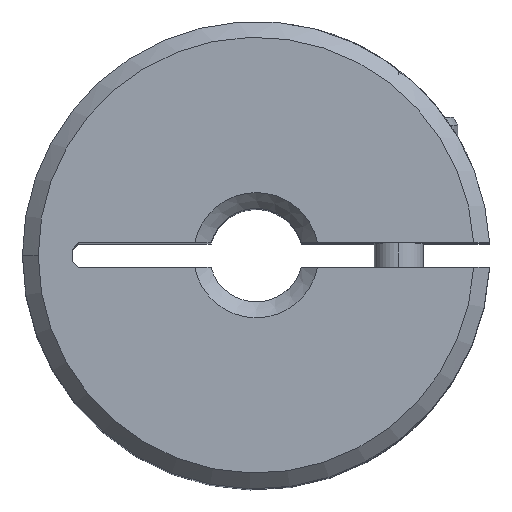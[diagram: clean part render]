
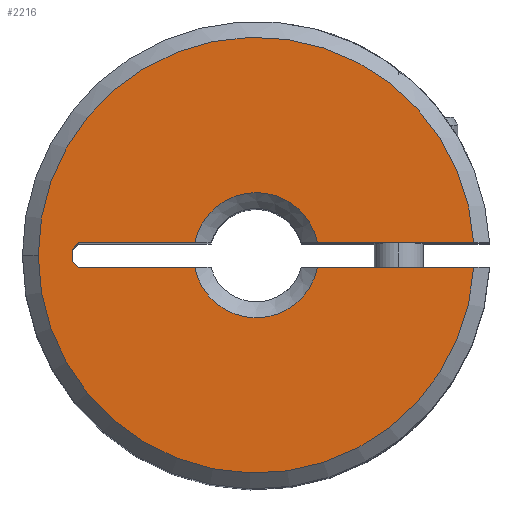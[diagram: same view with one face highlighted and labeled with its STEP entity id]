
A CAD part, top view. The second image highlights one B-rep face of the part: STEP entity #2216.
In plain terms, the highlighted planar face has unit normal (0, 0, 1).
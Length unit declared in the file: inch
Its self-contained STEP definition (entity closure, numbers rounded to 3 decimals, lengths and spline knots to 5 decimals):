
#263=DIRECTION('',(-0.707,0.707,0.));
#264=VECTOR('',#263,0.01096);
#265=CARTESIAN_POINT('',(-0.22426,-0.0155,0.43307));
#266=LINE('',#265,#264);
#267=DIRECTION('',(-1.,0.,0.));
#268=VECTOR('',#267,0.14674);
#269=CARTESIAN_POINT('',(-0.07752,-0.0155,
0.43307));
#270=LINE('',#269,#268);
#271=CARTESIAN_POINT('',(0.,0.,0.43307));
#272=DIRECTION('',(0.,0.,-1.));
#273=DIRECTION('',(0.981,-0.196,0.));
#274=AXIS2_PLACEMENT_3D('',#271,#272,#273);
#276=DIRECTION('',(-1.,0.,0.));
#277=VECTOR('',#276,0.19732);
#278=CARTESIAN_POINT('',(0.27484,-0.0155,0.43307));
#279=LINE('',#278,#277);
#280=CARTESIAN_POINT('',(0.,0.,0.43307));
#281=DIRECTION('',(0.,0.,1.));
#282=DIRECTION('',(-1.,0.,0.));
#283=AXIS2_PLACEMENT_3D('',#280,#281,#282);
#285=CARTESIAN_POINT('',(0.,0.,0.43307));
#286=DIRECTION('',(0.,0.,1.));
#287=DIRECTION('',(0.998,0.056,0.));
#288=AXIS2_PLACEMENT_3D('',#285,#286,#287);
#290=DIRECTION('',(1.,0.,0.));
#291=VECTOR('',#290,0.19732);
#292=CARTESIAN_POINT('',(0.07752,0.0155,
0.43307));
#293=LINE('',#292,#291);
#294=DIRECTION('',(0.707,0.707,0.));
#295=VECTOR('',#294,0.01096);
#296=CARTESIAN_POINT('',(-0.23201,0.00775,0.43307));
#297=LINE('',#296,#295);
#298=DIRECTION('',(0.,1.,0.));
#299=VECTOR('',#298,0.0155);
#300=CARTESIAN_POINT('',(-0.23201,-0.00775,0.43307));
#301=LINE('',#300,#299);
#912=DIRECTION('',(-1.,0.,0.));
#913=VECTOR('',#912,0.14674);
#914=CARTESIAN_POINT('',(-0.07752,0.0155,
0.43307));
#915=LINE('',#914,#913);
#938=CARTESIAN_POINT('',(0.,0.,0.43307));
#939=DIRECTION('',(0.,0.,-1.));
#940=DIRECTION('',(-0.981,0.196,0.));
#941=AXIS2_PLACEMENT_3D('',#938,#939,#940);
#950=CARTESIAN_POINT('',(0.27484,0.0155,0.43307));
#1709=VERTEX_POINT('',#950);
#1710=CARTESIAN_POINT('',(-0.22426,-0.0155,0.43307));
#1711=CARTESIAN_POINT('',(-0.23201,-0.00775,0.43307));
#1712=VERTEX_POINT('',#1710);
#1713=VERTEX_POINT('',#1711);
#1714=CARTESIAN_POINT('',(-0.07752,-0.0155,
0.43307));
#1715=VERTEX_POINT('',#1714);
#1716=CARTESIAN_POINT('',(0.07752,-0.0155,0.43307));
#1717=VERTEX_POINT('',#1716);
#1718=CARTESIAN_POINT('',(0.27484,-0.0155,0.43307));
#1719=VERTEX_POINT('',#1718);
#1720=CARTESIAN_POINT('',(-0.27528,0.,0.43307));
#1721=VERTEX_POINT('',#1720);
#1722=CARTESIAN_POINT('',(0.07752,0.0155,
0.43307));
#1723=VERTEX_POINT('',#1722);
#1724=CARTESIAN_POINT('',(-0.07752,0.0155,0.43307));
#1725=VERTEX_POINT('',#1724);
#1726=CARTESIAN_POINT('',(-0.23201,0.00775,0.43307));
#1727=CARTESIAN_POINT('',(-0.22426,0.0155,0.43307));
#1728=VERTEX_POINT('',#1726);
#1729=VERTEX_POINT('',#1727);
#2188=CARTESIAN_POINT('',(0.,0.,0.43307));
#2189=DIRECTION('',(0.,0.,1.));
#2190=DIRECTION('',(1.,0.,0.));
#2191=AXIS2_PLACEMENT_3D('',#2188,#2189,#2190);
#2192=PLANE('',#2191);
#2194=ORIENTED_EDGE('',*,*,#2193,.F.);
#2196=ORIENTED_EDGE('',*,*,#2195,.F.);
#2198=ORIENTED_EDGE('',*,*,#2197,.F.);
#2200=ORIENTED_EDGE('',*,*,#2199,.F.);
#2202=ORIENTED_EDGE('',*,*,#2201,.F.);
#2203=ORIENTED_EDGE('',*,*,#2166,.F.);
#2205=ORIENTED_EDGE('',*,*,#2204,.F.);
#2207=ORIENTED_EDGE('',*,*,#2206,.F.);
#2209=ORIENTED_EDGE('',*,*,#2208,.T.);
#2211=ORIENTED_EDGE('',*,*,#2210,.F.);
#2213=ORIENTED_EDGE('',*,*,#2212,.F.);
#2214=EDGE_LOOP('',(#2194,#2196,#2198,#2200,#2202,#2203,#2205,#2207,#2209,#2211,
#2213));
#2215=FACE_OUTER_BOUND('',#2214,.F.);
#275=CIRCLE('',#274,0.07906);
#284=CIRCLE('',#283,0.27528);
#289=CIRCLE('',#288,0.27528);
#942=CIRCLE('',#941,0.07906);
#2166=EDGE_CURVE('',#1709,#1721,#289,.T.);
#2193=EDGE_CURVE('',#1712,#1713,#266,.T.);
#2195=EDGE_CURVE('',#1715,#1712,#270,.T.);
#2197=EDGE_CURVE('',#1717,#1715,#275,.T.);
#2199=EDGE_CURVE('',#1719,#1717,#279,.T.);
#2201=EDGE_CURVE('',#1721,#1719,#284,.T.);
#2204=EDGE_CURVE('',#1723,#1709,#293,.T.);
#2206=EDGE_CURVE('',#1725,#1723,#942,.T.);
#2208=EDGE_CURVE('',#1725,#1729,#915,.T.);
#2210=EDGE_CURVE('',#1728,#1729,#297,.T.);
#2212=EDGE_CURVE('',#1713,#1728,#301,.T.);
#2216=ADVANCED_FACE('',(#2215),#2192,.T.);
